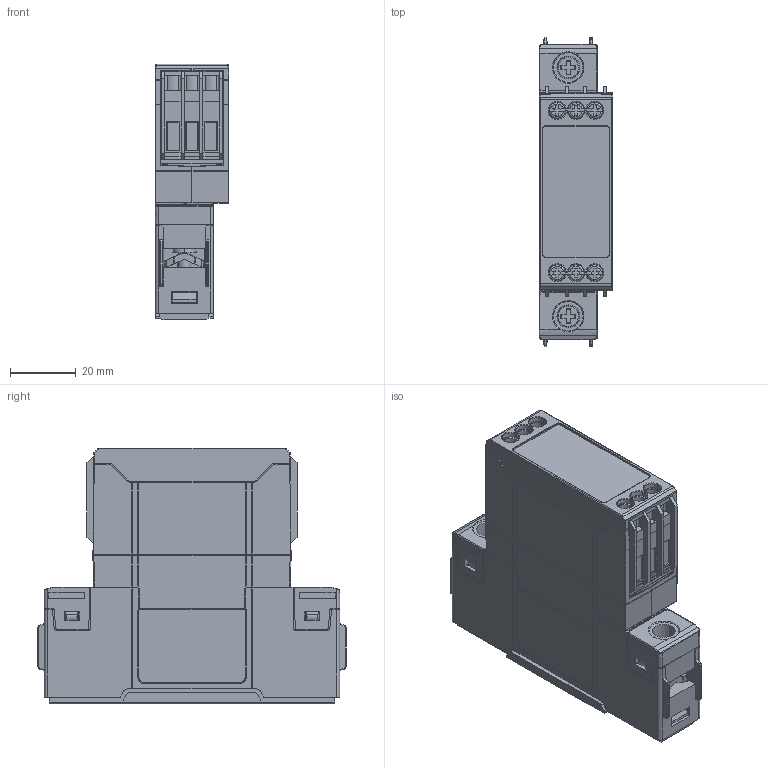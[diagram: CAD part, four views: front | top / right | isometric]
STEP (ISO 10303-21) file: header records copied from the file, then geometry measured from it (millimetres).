
FILE_DESCRIPTION((''),'2;1');
FILE_NAME('CGI0909-00-3D.stp','2011-11-15T15:38:35',(''),(''),'Mechanical Desktop 2011','Mechanical Desktop 2011',', , ');
FILE_SCHEMA(('CONFIG_CONTROL_DESIGN'));
Length unit declared in the file: millimetre
Products named in the file (2): Product; CGI0901-00 WH
Assembly tree (1 placements, depth 2):
  Product
    CGI0901-00 WH
Bounding box: 22.5 x 94 x 77.93 mm (x, y, z)
Volume: 106209.3 mm3; surface area: 26396.8 mm2
Topology: 1 solids, 3 shells, 1373 faces, 3909 edges, 2517 vertices
Faces by surface type: plane 594, bspline 429, cylinder 261, torus 34, cone 32, sphere 23
Entity records: 50786 total; most frequent: CARTESIAN_POINT 15963, ORIENTED_EDGE 7660, DIRECTION 6782, EDGE_CURVE 3830, VECTOR 2530, LINE 2530, VERTEX_POINT 2518, AXIS2_PLACEMENT_3D 2126
